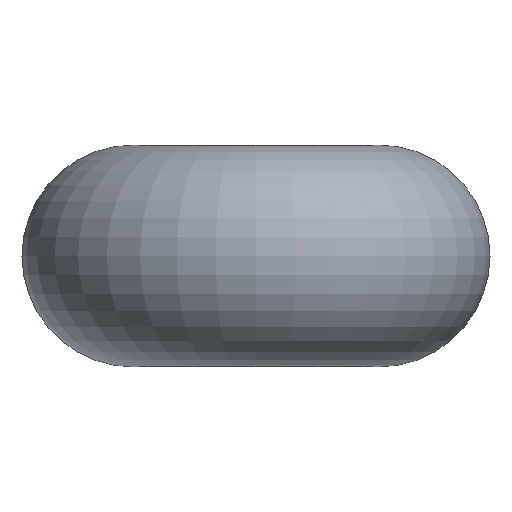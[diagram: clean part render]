
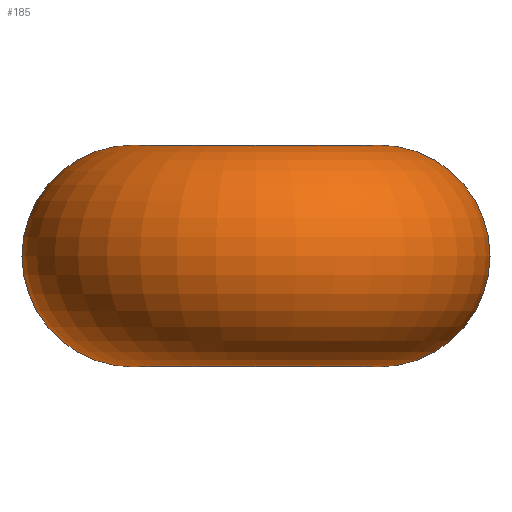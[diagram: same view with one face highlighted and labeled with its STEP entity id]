
A CAD part, left-side view. The second image highlights one B-rep face of the part: STEP entity #185.
In plain terms, the highlighted toroidal (fillet/blend) face has major radius 1 mm and minor radius 0.9 mm.
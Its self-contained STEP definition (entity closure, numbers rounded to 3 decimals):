
#20 = VERTEX_POINT ( 'NONE', #45 ) ;
#45 = CARTESIAN_POINT ( 'NONE',  ( 0.748, -0.663, -0.9 ) ) ;
#165 = ORIENTED_EDGE ( 'NONE', *, *, #214, .T. ) ;
#166 = ORIENTED_EDGE ( 'NONE', *, *, #196, .T. ) ;
#167 = ORIENTED_EDGE ( 'NONE', *, *, #181, .F. ) ;
#168 = ORIENTED_EDGE ( 'NONE', *, *, #169, .F. ) ;
#169 = EDGE_CURVE ( 'NONE', #202, #179, #347, .T. ) ;
#179 = VERTEX_POINT ( 'NONE', #243 ) ;
#181 = EDGE_CURVE ( 'NONE', #179, #198, #242, .T. ) ;
#184 = EDGE_CURVE ( 'NONE', #201, #20, #237, .T. ) ;
#185 = ADVANCED_FACE ( 'NONE', ( #232 ), #229, .T. ) ;
#186 = EDGE_LOOP ( 'NONE', ( #187, #188, #165, #166, #167, #168 ) ) ;
#187 = ORIENTED_EDGE ( 'NONE', *, *, #200, .F. ) ;
#188 = ORIENTED_EDGE ( 'NONE', *, *, #184, .T. ) ;
#196 = EDGE_CURVE ( 'NONE', #197, #198, #275, .T. ) ;
#197 = VERTEX_POINT ( 'NONE', #266 ) ;
#198 = VERTEX_POINT ( 'NONE', #265 ) ;
#200 = EDGE_CURVE ( 'NONE', #201, #202, #264, .T. ) ;
#201 = VERTEX_POINT ( 'NONE', #414 ) ;
#202 = VERTEX_POINT ( 'NONE', #413 ) ;
#214 = EDGE_CURVE ( 'NONE', #20, #197, #430, .T. ) ;
#229 = TOROIDAL_SURFACE ( 'NONE', #231, 1., 0.9 ) ;
#230 = CARTESIAN_POINT ( 'NONE',  ( 0., 0., 0. ) ) ;
#231 = AXIS2_PLACEMENT_3D ( 'NONE', #230, #290, #289 ) ;
#232 = FACE_OUTER_BOUND ( 'NONE', #186, .T. ) ;
#233 = DIRECTION ( 'NONE',  ( 1., 0., 0. ) ) ;
#234 = DIRECTION ( 'NONE',  ( 0., 0., 1. ) ) ;
#235 = CARTESIAN_POINT ( 'NONE',  ( 0., 0., -0.9 ) ) ;
#236 = AXIS2_PLACEMENT_3D ( 'NONE', #235, #234, #233 ) ;
#237 = CIRCLE ( 'NONE', #236, 1. ) ;
#238 = DIRECTION ( 'NONE',  ( 1., 0., 0. ) ) ;
#239 = DIRECTION ( 'NONE',  ( 0., 0., 1. ) ) ;
#240 = CARTESIAN_POINT ( 'NONE',  ( 0., 0., 0.9 ) ) ;
#241 = AXIS2_PLACEMENT_3D ( 'NONE', #240, #239, #238 ) ;
#242 = CIRCLE ( 'NONE', #241, 1. ) ;
#243 = CARTESIAN_POINT ( 'NONE',  ( 0.748, 0.663, 0.9 ) ) ;
#260 = DIRECTION ( 'NONE',  ( 0., 0., -1. ) ) ;
#261 = DIRECTION ( 'NONE',  ( 0.663, -0.748, 0. ) ) ;
#262 = CARTESIAN_POINT ( 'NONE',  ( 0.748, 0.663, 0. ) ) ;
#263 = AXIS2_PLACEMENT_3D ( 'NONE', #262, #261, #260 ) ;
#264 = CIRCLE ( 'NONE', #263, 0.9 ) ;
#265 = CARTESIAN_POINT ( 'NONE',  ( 0.748, -0.663, 0.9 ) ) ;
#266 = CARTESIAN_POINT ( 'NONE',  ( 1.422, -1.26, 0. ) ) ;
#267 = DIRECTION ( 'NONE',  ( 0., 0., -1. ) ) ;
#268 = DIRECTION ( 'NONE',  ( -0.663, -0.748, 0. ) ) ;
#269 = CARTESIAN_POINT ( 'NONE',  ( 0.748, -0.663, 0. ) ) ;
#270 = AXIS2_PLACEMENT_3D ( 'NONE', #269, #268, #267 ) ;
#275 = CIRCLE ( 'NONE', #270, 0.9 ) ;
#289 = DIRECTION ( 'NONE',  ( 1., 0., 0. ) ) ;
#290 = DIRECTION ( 'NONE',  ( 0., 0., 1. ) ) ;
#341 = DIRECTION ( 'NONE',  ( 0., 0., -1. ) ) ;
#342 = DIRECTION ( 'NONE',  ( 0.663, -0.748, 0. ) ) ;
#343 = CARTESIAN_POINT ( 'NONE',  ( 0.748, 0.663, 0. ) ) ;
#344 = AXIS2_PLACEMENT_3D ( 'NONE', #343, #342, #341 ) ;
#347 = CIRCLE ( 'NONE', #344, 0.9 ) ;
#413 = CARTESIAN_POINT ( 'NONE',  ( 1.422, 1.26, 0. ) ) ;
#414 = CARTESIAN_POINT ( 'NONE',  ( 0.748, 0.663, -0.9 ) ) ;
#422 = DIRECTION ( 'NONE',  ( 0., 0., -1. ) ) ;
#423 = DIRECTION ( 'NONE',  ( -0.663, -0.748, 0. ) ) ;
#424 = CARTESIAN_POINT ( 'NONE',  ( 0.748, -0.663, 0. ) ) ;
#425 = AXIS2_PLACEMENT_3D ( 'NONE', #424, #423, #422 ) ;
#430 = CIRCLE ( 'NONE', #425, 0.9 ) ;
